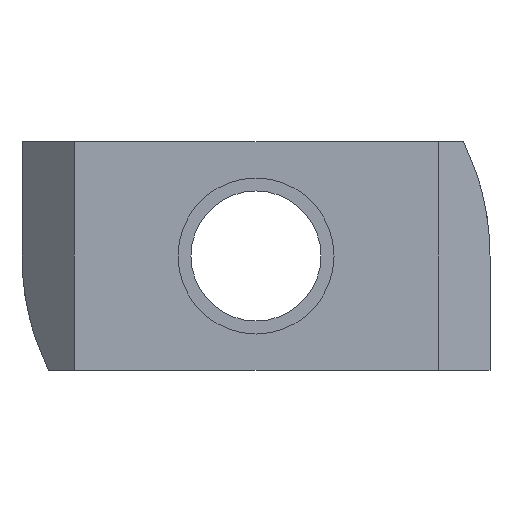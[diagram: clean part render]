
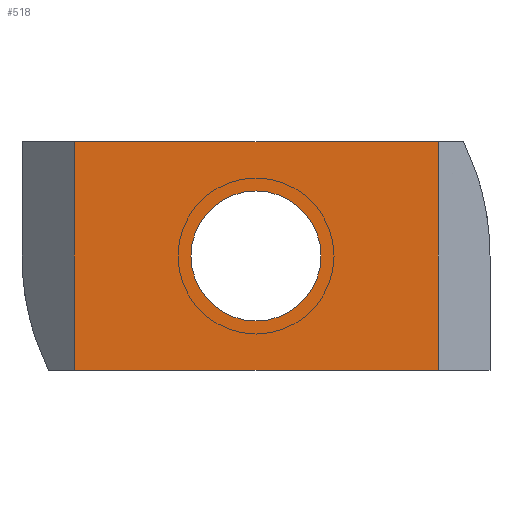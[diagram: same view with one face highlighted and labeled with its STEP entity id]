
A CAD part, front view. The second image highlights one B-rep face of the part: STEP entity #518.
In plain terms, the highlighted planar face has unit normal (0, -1, 0).
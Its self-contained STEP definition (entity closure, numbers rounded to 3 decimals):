
#133=DIRECTION('',(0.,0.,1.));
#134=VECTOR('',#133,8.8);
#135=CARTESIAN_POINT('',(7.,-5.5,-4.4));
#136=LINE('',#135,#134);
#155=DIRECTION('',(-1.,0.,0.));
#156=VECTOR('',#155,14.);
#157=CARTESIAN_POINT('',(7.,-5.5,4.4));
#158=LINE('',#157,#156);
#159=DIRECTION('',(1.,0.,0.));
#160=VECTOR('',#159,14.);
#161=CARTESIAN_POINT('',(-7.,-5.5,-4.4));
#162=LINE('',#161,#160);
#163=CARTESIAN_POINT('',(0.,-5.5,0.));
#164=DIRECTION('',(0.,1.,0.));
#165=DIRECTION('',(1.,0.,0.));
#166=AXIS2_PLACEMENT_3D('',#163,#164,#165);
#168=CARTESIAN_POINT('',(0.,-5.5,0.));
#169=DIRECTION('',(0.,1.,0.));
#170=DIRECTION('',(-1.,0.,0.));
#171=AXIS2_PLACEMENT_3D('',#168,#169,#170);
#173=DIRECTION('',(0.,0.,-1.));
#174=VECTOR('',#173,8.8);
#175=CARTESIAN_POINT('',(-7.,-5.5,4.4));
#176=LINE('',#175,#174);
#265=CARTESIAN_POINT('',(2.5,-5.5,0.));
#266=CARTESIAN_POINT('',(-2.5,-5.5,0.));
#267=VERTEX_POINT('',#265);
#268=VERTEX_POINT('',#266);
#273=CARTESIAN_POINT('',(-7.,-5.5,4.4));
#274=CARTESIAN_POINT('',(-7.,-5.5,-4.4));
#275=VERTEX_POINT('',#273);
#276=VERTEX_POINT('',#274);
#283=CARTESIAN_POINT('',(7.,-5.5,-4.4));
#284=CARTESIAN_POINT('',(7.,-5.5,4.4));
#285=VERTEX_POINT('',#283);
#286=VERTEX_POINT('',#284);
#500=CARTESIAN_POINT('',(0.,-5.5,0.));
#501=DIRECTION('',(0.,1.,0.));
#502=DIRECTION('',(1.,0.,0.));
#503=AXIS2_PLACEMENT_3D('',#500,#501,#502);
#504=PLANE('',#503);
#505=ORIENTED_EDGE('',*,*,#446,.F.);
#506=ORIENTED_EDGE('',*,*,#491,.F.);
#507=ORIENTED_EDGE('',*,*,#359,.F.);
#509=ORIENTED_EDGE('',*,*,#508,.F.);
#510=EDGE_LOOP('',(#505,#506,#507,#509));
#511=FACE_OUTER_BOUND('',#510,.F.);
#513=ORIENTED_EDGE('',*,*,#512,.F.);
#515=ORIENTED_EDGE('',*,*,#514,.F.);
#516=EDGE_LOOP('',(#513,#515));
#517=FACE_BOUND('',#516,.F.);
#518=ADVANCED_FACE('',(#511,#517),#504,.F.);
#167=CIRCLE('',#166,2.5);
#172=CIRCLE('',#171,2.5);
#359=EDGE_CURVE('',#276,#285,#162,.T.);
#446=EDGE_CURVE('',#286,#275,#158,.T.);
#491=EDGE_CURVE('',#285,#286,#136,.T.);
#508=EDGE_CURVE('',#275,#276,#176,.T.);
#512=EDGE_CURVE('',#267,#268,#167,.T.);
#514=EDGE_CURVE('',#268,#267,#172,.T.);
